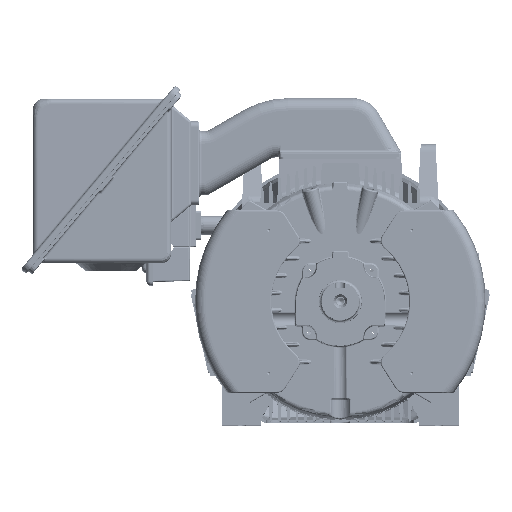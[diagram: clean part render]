
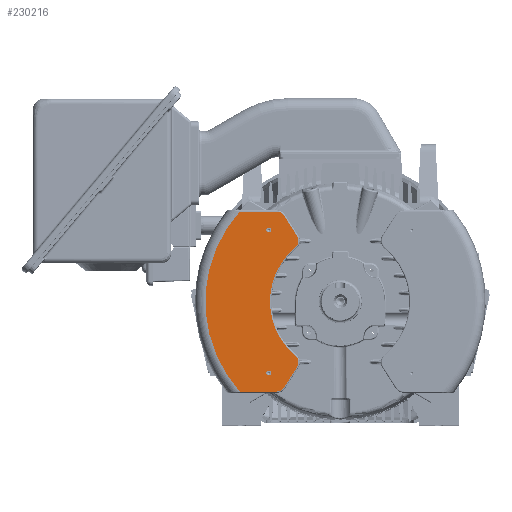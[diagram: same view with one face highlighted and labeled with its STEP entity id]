
A CAD part, top view. The second image highlights one B-rep face of the part: STEP entity #230216.
In plain terms, the highlighted planar face has unit normal (0, 0, 1).
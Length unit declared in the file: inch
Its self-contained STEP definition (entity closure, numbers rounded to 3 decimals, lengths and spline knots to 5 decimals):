
#229455=DIRECTION('',(-0.537,0.843,0.));
#229456=VECTOR('',#229455,2.48175);
#229457=CARTESIAN_POINT('',(-4.37432,6.62436,0.));
#229458=LINE('',#229457,#229456);
#229459=CARTESIAN_POINT('',(-5.10807,6.15691,
0.));
#229460=DIRECTION('',(0.,0.,1.));
#229461=DIRECTION('',(0.639,-0.77,0.));
#229462=AXIS2_PLACEMENT_3D('',#229459,#229460,#229461);
#229464=CARTESIAN_POINT('',(0.,0.,0.));
#229465=DIRECTION('',(0.,0.,-1.));
#229466=DIRECTION('',(-0.639,-0.77,0.));
#229467=AXIS2_PLACEMENT_3D('',#229464,#229465,#229466);
#229469=CARTESIAN_POINT('',(-5.10807,-6.15691,
0.));
#229470=DIRECTION('',(0.,0.,1.));
#229471=DIRECTION('',(0.843,-0.537,0.));
#229472=AXIS2_PLACEMENT_3D('',#229469,#229470,#229471);
#229474=DIRECTION('',(0.537,0.843,0.));
#229475=VECTOR('',#229474,2.48175);
#229476=CARTESIAN_POINT('',(-5.70777,-8.71745,0.));
#229477=LINE('',#229476,#229475);
#229478=CARTESIAN_POINT('',(-6.44152,-8.25,0.));
#229479=DIRECTION('',(0.,0.,1.));
#229480=DIRECTION('',(0.,-1.,0.));
#229481=AXIS2_PLACEMENT_3D('',#229478,#229479,#229480);
#229483=DIRECTION('',(1.,0.,0.));
#229484=VECTOR('',#229483,3.75601);
#229485=CARTESIAN_POINT('',(-10.19753,-9.12,0.));
#229486=LINE('',#229485,#229484);
#229487=CARTESIAN_POINT('',(0.,0.,0.));
#229488=DIRECTION('',(0.,0.,-1.));
#229489=DIRECTION('',(-0.745,-0.667,0.));
#229490=AXIS2_PLACEMENT_3D('',#229487,#229488,#229489);
#229492=DIRECTION('',(-1.,0.,0.));
#229493=VECTOR('',#229492,3.75601);
#229494=CARTESIAN_POINT('',(-6.44152,9.12,0.));
#229495=LINE('',#229494,#229493);
#229496=CARTESIAN_POINT('',(-6.44152,8.25,0.));
#229497=DIRECTION('',(0.,0.,1.));
#229498=DIRECTION('',(0.843,0.537,0.));
#229499=AXIS2_PLACEMENT_3D('',#229496,#229497,#229498);
#229501=CARTESIAN_POINT('',(-7.24784,7.24784,0.));
#229502=DIRECTION('',(0.,0.,-1.));
#229503=DIRECTION('',(-1.,0.,0.));
#229504=AXIS2_PLACEMENT_3D('',#229501,#229502,#229503);
#229506=CARTESIAN_POINT('',(-7.24784,7.24784,0.));
#229507=DIRECTION('',(0.,0.,-1.));
#229508=DIRECTION('',(1.,0.,0.));
#229509=AXIS2_PLACEMENT_3D('',#229506,#229507,#229508);
#229511=CARTESIAN_POINT('',(-7.24784,-7.24784,0.));
#229512=DIRECTION('',(0.,0.,-1.));
#229513=DIRECTION('',(-1.,0.,0.));
#229514=AXIS2_PLACEMENT_3D('',#229511,#229512,#229513);
#229516=CARTESIAN_POINT('',(-7.24784,-7.24784,0.));
#229517=DIRECTION('',(0.,0.,-1.));
#229518=DIRECTION('',(1.,0.,0.));
#229519=AXIS2_PLACEMENT_3D('',#229516,#229517,#229518);
#229541=CARTESIAN_POINT('',(-10.19753,9.12,0.));
#230051=CARTESIAN_POINT('',(-7.49784,7.24784,0.));
#230052=CARTESIAN_POINT('',(-6.99784,7.24784,0.));
#230053=VERTEX_POINT('',#230051);
#230054=VERTEX_POINT('',#230052);
#230059=CARTESIAN_POINT('',(-7.49784,-7.24784,0.));
#230060=CARTESIAN_POINT('',(-6.99784,-7.24784,0.));
#230061=VERTEX_POINT('',#230059);
#230062=VERTEX_POINT('',#230060);
#230063=CARTESIAN_POINT('',(-4.37432,6.62436,0.));
#230064=CARTESIAN_POINT('',(-5.70777,8.71745,0.));
#230065=VERTEX_POINT('',#230063);
#230066=VERTEX_POINT('',#230064);
#230071=CARTESIAN_POINT('',(-4.55257,5.48735,
0.));
#230072=VERTEX_POINT('',#230071);
#230075=CARTESIAN_POINT('',(-4.55257,-5.48735,
0.));
#230076=VERTEX_POINT('',#230075);
#230079=CARTESIAN_POINT('',(-4.37432,-6.62436,
0.));
#230080=VERTEX_POINT('',#230079);
#230083=CARTESIAN_POINT('',(-5.70777,-8.71745,0.));
#230084=VERTEX_POINT('',#230083);
#230101=VERTEX_POINT('',#229541);
#230105=CARTESIAN_POINT('',(-6.44152,9.12,0.));
#230106=VERTEX_POINT('',#230105);
#230109=CARTESIAN_POINT('',(-6.44152,-9.12,
0.));
#230110=VERTEX_POINT('',#230109);
#230113=CARTESIAN_POINT('',(-10.19753,-9.12,0.));
#230114=VERTEX_POINT('',#230113);
#230178=CARTESIAN_POINT('',(0.,0.,0.));
#230179=DIRECTION('',(0.,0.,-1.));
#230180=DIRECTION('',(0.537,0.843,0.));
#230181=AXIS2_PLACEMENT_3D('',#230178,#230179,#230180);
#230182=PLANE('',#230181);
#230184=ORIENTED_EDGE('',*,*,#230183,.F.);
#230186=ORIENTED_EDGE('',*,*,#230185,.F.);
#230188=ORIENTED_EDGE('',*,*,#230187,.F.);
#230190=ORIENTED_EDGE('',*,*,#230189,.F.);
#230191=ORIENTED_EDGE('',*,*,#230168,.F.);
#230193=ORIENTED_EDGE('',*,*,#230192,.F.);
#230195=ORIENTED_EDGE('',*,*,#230194,.F.);
#230197=ORIENTED_EDGE('',*,*,#230196,.T.);
#230199=ORIENTED_EDGE('',*,*,#230198,.F.);
#230201=ORIENTED_EDGE('',*,*,#230200,.F.);
#230202=EDGE_LOOP('',(#230184,#230186,#230188,#230190,#230191,#230193,#230195,
#230197,#230199,#230201));
#230203=FACE_OUTER_BOUND('',#230202,.F.);
#230205=ORIENTED_EDGE('',*,*,#230204,.F.);
#230207=ORIENTED_EDGE('',*,*,#230206,.F.);
#230208=EDGE_LOOP('',(#230205,#230207));
#230209=FACE_BOUND('',#230208,.F.);
#230211=ORIENTED_EDGE('',*,*,#230210,.F.);
#230213=ORIENTED_EDGE('',*,*,#230212,.F.);
#230214=EDGE_LOOP('',(#230211,#230213));
#230215=FACE_BOUND('',#230214,.F.);
#230216=ADVANCED_FACE('',(#230203,#230209,#230215),#230182,.F.);
#229463=CIRCLE('',#229462,0.87);
#229468=CIRCLE('',#229467,7.13);
#229473=CIRCLE('',#229472,0.87);
#229482=CIRCLE('',#229481,0.87);
#229491=CIRCLE('',#229490,13.68079);
#229500=CIRCLE('',#229499,0.87);
#229505=CIRCLE('',#229504,0.25);
#229510=CIRCLE('',#229509,0.25);
#229515=CIRCLE('',#229514,0.25);
#229520=CIRCLE('',#229519,0.25);
#230168=EDGE_CURVE('',#230084,#230080,#229477,.T.);
#230183=EDGE_CURVE('',#230065,#230066,#229458,.T.);
#230185=EDGE_CURVE('',#230072,#230065,#229463,.T.);
#230187=EDGE_CURVE('',#230076,#230072,#229468,.T.);
#230189=EDGE_CURVE('',#230080,#230076,#229473,.T.);
#230192=EDGE_CURVE('',#230110,#230084,#229482,.T.);
#230194=EDGE_CURVE('',#230114,#230110,#229486,.T.);
#230196=EDGE_CURVE('',#230114,#230101,#229491,.T.);
#230198=EDGE_CURVE('',#230106,#230101,#229495,.T.);
#230200=EDGE_CURVE('',#230066,#230106,#229500,.T.);
#230204=EDGE_CURVE('',#230053,#230054,#229505,.T.);
#230206=EDGE_CURVE('',#230054,#230053,#229510,.T.);
#230210=EDGE_CURVE('',#230061,#230062,#229515,.T.);
#230212=EDGE_CURVE('',#230062,#230061,#229520,.T.);
